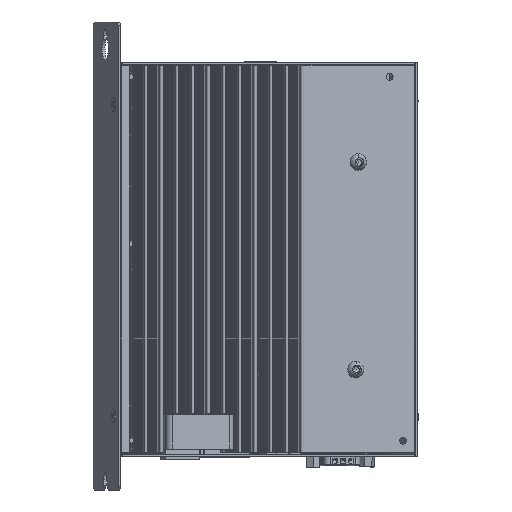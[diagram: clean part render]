
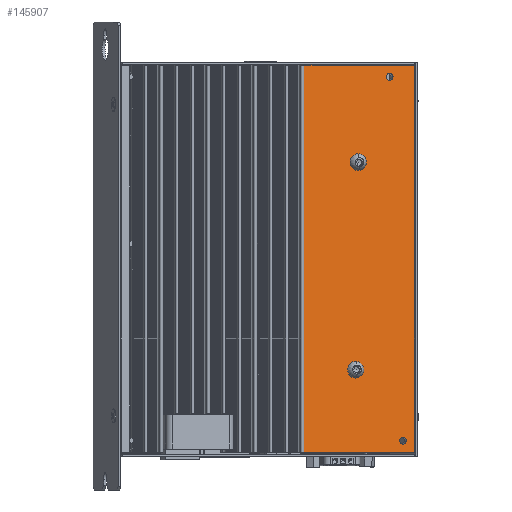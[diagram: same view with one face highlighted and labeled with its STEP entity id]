
A CAD part, left-side view. The second image highlights one B-rep face of the part: STEP entity #145907.
In plain terms, the highlighted planar face has unit normal (-0.966, -0.259, 0).
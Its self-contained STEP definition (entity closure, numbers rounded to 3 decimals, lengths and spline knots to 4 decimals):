
#3347=CIRCLE('',#154713,0.0728);
#3352=CIRCLE('',#154720,0.0728);
#3357=CIRCLE('',#154727,0.0591);
#3360=CIRCLE('',#154733,0.0591);
#5362=FACE_BOUND('',#15979,.T.);
#5363=FACE_BOUND('',#15980,.T.);
#5364=FACE_BOUND('',#15981,.T.);
#5365=FACE_BOUND('',#15982,.T.);
#8161=FACE_OUTER_BOUND('',#15978,.T.);
#15978=EDGE_LOOP('',(#101668,#101669,#101670,#101671));
#15979=EDGE_LOOP('',(#101672));
#15980=EDGE_LOOP('',(#101673));
#15981=EDGE_LOOP('',(#101674));
#15982=EDGE_LOOP('',(#101675));
#26425=LINE('',#224703,#43182);
#27256=LINE('',#226414,#44013);
#27280=LINE('',#226540,#44037);
#27281=LINE('',#226546,#44038);
#43182=VECTOR('',#173043,0.0394);
#44013=VECTOR('',#173930,0.0394);
#44037=VECTOR('',#173988,0.0394);
#44038=VECTOR('',#173995,0.0394);
#59373=VERTEX_POINT('',#224624);
#59378=VERTEX_POINT('',#224638);
#59383=VERTEX_POINT('',#224652);
#59390=VERTEX_POINT('',#224672);
#59400=VERTEX_POINT('',#224700);
#59401=VERTEX_POINT('',#224702);
#60252=VERTEX_POINT('',#226411);
#60253=VERTEX_POINT('',#226413);
#74592=EDGE_CURVE('',#59373,#59373,#3347,.T.);
#74599=EDGE_CURVE('',#59378,#59378,#3352,.T.);
#74606=EDGE_CURVE('',#59383,#59383,#3357,.T.);
#74616=EDGE_CURVE('',#59390,#59390,#3360,.T.);
#74631=EDGE_CURVE('',#59401,#59400,#26425,.T.);
#75489=EDGE_CURVE('',#60252,#60253,#27256,.T.);
#75523=EDGE_CURVE('',#59400,#60253,#27280,.T.);
#75526=EDGE_CURVE('',#59401,#60252,#27281,.T.);
#101668=ORIENTED_EDGE('',*,*,#75489,.F.);
#101669=ORIENTED_EDGE('',*,*,#75526,.F.);
#101670=ORIENTED_EDGE('',*,*,#74631,.T.);
#101671=ORIENTED_EDGE('',*,*,#75523,.T.);
#101672=ORIENTED_EDGE('',*,*,#74592,.F.);
#101673=ORIENTED_EDGE('',*,*,#74599,.F.);
#101674=ORIENTED_EDGE('',*,*,#74606,.F.);
#101675=ORIENTED_EDGE('',*,*,#74616,.F.);
#131463=PLANE('',#154789);
#145907=ADVANCED_FACE('',(#8161,#5362,#5363,#5364,#5365),#131463,.T.);
#154713=AXIS2_PLACEMENT_3D('',#224625,#172964,#172965);
#154720=AXIS2_PLACEMENT_3D('',#224639,#172980,#172981);
#154727=AXIS2_PLACEMENT_3D('',#224653,#172996,#172997);
#154733=AXIS2_PLACEMENT_3D('',#224673,#173015,#173016);
#154789=AXIS2_PLACEMENT_3D('',#226545,#173993,#173994);
#172964=DIRECTION('center_axis',(-0.966,-0.259,
0.));
#172965=DIRECTION('ref_axis',(0.,0.,
-1.));
#172980=DIRECTION('center_axis',(-0.966,-0.259,
0.));
#172981=DIRECTION('ref_axis',(0.,0.,
-1.));
#172996=DIRECTION('center_axis',(-0.966,-0.259,
0.));
#172997=DIRECTION('ref_axis',(0.,0.,
-1.));
#173015=DIRECTION('center_axis',(-0.966,-0.259,
0.));
#173016=DIRECTION('ref_axis',(0.,0.,
-1.));
#173043=DIRECTION('',(0.259,-0.966,0.));
#173930=DIRECTION('',(0.259,-0.966,0.));
#173988=DIRECTION('',(0.,0.,1.));
#173993=DIRECTION('center_axis',(-0.966,-0.259,
0.));
#173994=DIRECTION('ref_axis',(-0.259,0.966,0.));
#173995=DIRECTION('',(0.,0.,1.));
#224624=CARTESIAN_POINT('',(-0.8309,-0.2888,4.6079));
#224625=CARTESIAN_POINT('Origin',(-0.8309,-0.2888,
4.6807));
#224638=CARTESIAN_POINT('',(-0.8309,-0.2888,1.104));
#224639=CARTESIAN_POINT('Origin',(-0.8309,-0.2888,
1.1768));
#224652=CARTESIAN_POINT('',(-0.622,-1.0684,-0.0831));
#224653=CARTESIAN_POINT('Origin',(-0.622,-1.0684,
-0.024));
#224672=CARTESIAN_POINT('',(-0.6832,-0.8403,6.098));
#224673=CARTESIAN_POINT('Origin',(-0.6832,-0.8403,
6.1571));
#224700=CARTESIAN_POINT('',(-0.5711,-1.2586,-0.2209));
#224702=CARTESIAN_POINT('',(-1.1189,0.786,-0.2209));
#224703=CARTESIAN_POINT('',(-1.1189,0.786,-0.2209));
#226411=CARTESIAN_POINT('',(-1.1189,0.786,6.354));
#226413=CARTESIAN_POINT('',(-0.5711,-1.2586,6.354));
#226414=CARTESIAN_POINT('',(-1.1189,0.786,6.354));
#226540=CARTESIAN_POINT('',(-0.5711,-1.2586,-0.2209));
#226545=CARTESIAN_POINT('Origin',(-1.1189,0.786,-0.2209));
#226546=CARTESIAN_POINT('',(-1.1189,0.786,-0.2209));
